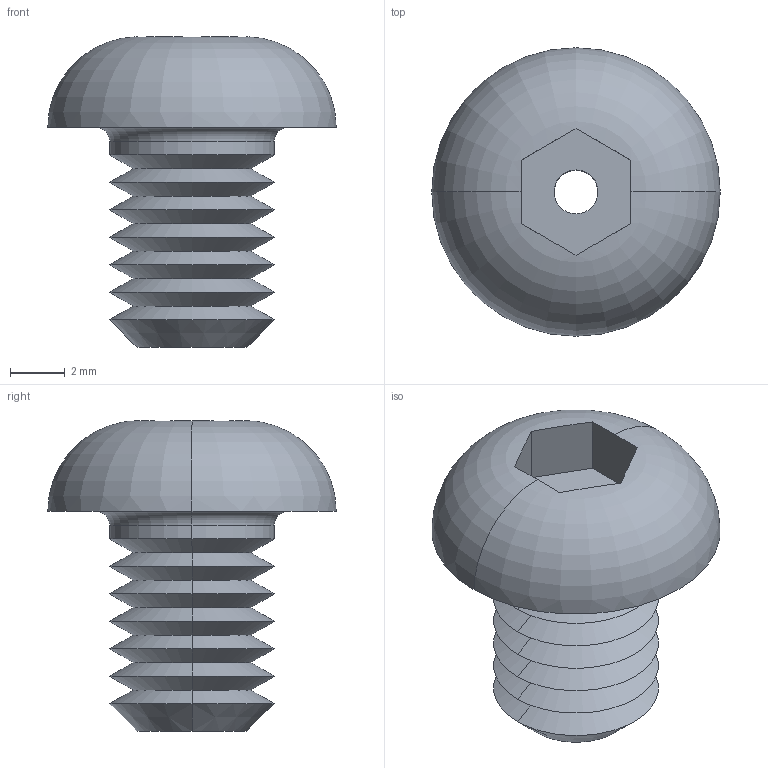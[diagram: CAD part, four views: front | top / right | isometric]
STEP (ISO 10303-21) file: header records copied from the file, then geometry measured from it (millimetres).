
FILE_DESCRIPTION (( 'STEP AP203' ), '1' );
FILE_NAME ('P0094.060-008-A2.step', '2019-07-12T16:54:34', ( '' ), ( '' ), 'SwSTEP 2.0', 'SolidWorks 2017', '' );
FILE_SCHEMA (( 'CONFIG_CONTROL_DESIGN' ));
Length unit declared in the file: millimetre
Products named in the file (1): P0094.060-008-A2
Bounding box: 10.5 x 10.5 x 11.3 mm (x, y, z)
Volume: 346.7 mm3; surface area: 516.5 mm2
Topology: 1 solids, 1 shells, 43 faces, 92 edges, 52 vertices
Faces by surface type: cone 26, plane 9, cylinder 4, torus 4
Entity records: 1245 total; most frequent: CARTESIAN_POINT 224, DIRECTION 214, ORIENTED_EDGE 184, EDGE_CURVE 92, AXIS2_PLACEMENT_3D 86, VERTEX_POINT 52, EDGE_LOOP 46, FACE_OUTER_BOUND 43
